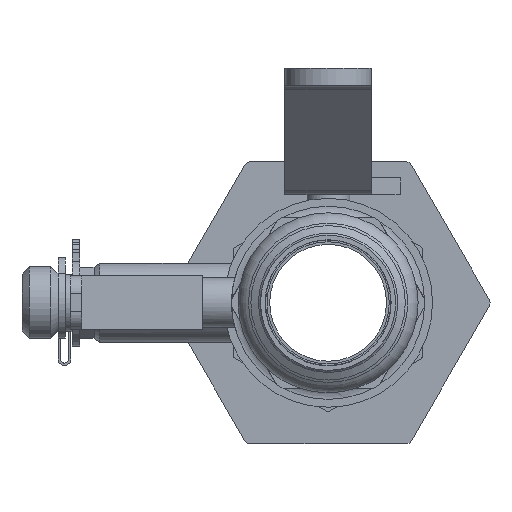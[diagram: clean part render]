
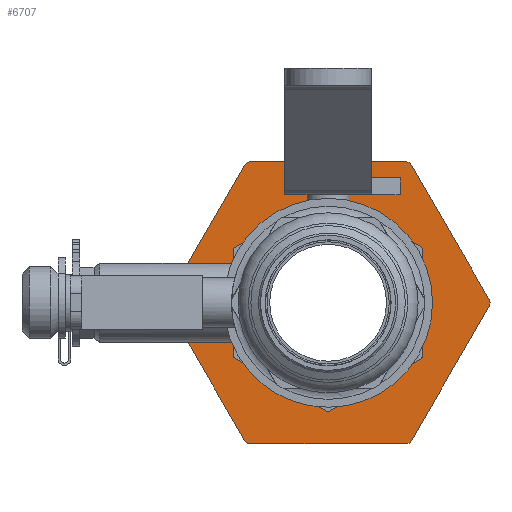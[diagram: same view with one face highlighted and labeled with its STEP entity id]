
A CAD part, left-side view. The second image highlights one B-rep face of the part: STEP entity #6707.
In plain terms, the highlighted planar face has unit normal (-1, 0, 0) as drawn and (1, 0, 0) by its records, which use the part's own axes.
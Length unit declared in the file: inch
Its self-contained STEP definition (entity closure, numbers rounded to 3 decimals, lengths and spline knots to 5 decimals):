
#112=FACE_BOUND('',#789,.T.);
#183=PLANE('',#7278);
#434=FACE_OUTER_BOUND('',#788,.T.);
#788=EDGE_LOOP('',(#4462,#4463,#4464,#4465,#4466,#4467,#4468,#4469,#4470,
#4471,#4472,#4473));
#789=EDGE_LOOP('',(#4474,#4475,#4476,#4477,#4478,#4479,#4480,#4481,#4482,
#4483,#4484,#4485));
#1163=LINE('',#9983,#1758);
#1168=LINE('',#10001,#1763);
#1175=LINE('',#10019,#1770);
#1180=LINE('',#10037,#1775);
#1186=LINE('',#10052,#1781);
#1187=LINE('',#10055,#1782);
#1212=LINE('',#10134,#1807);
#1215=LINE('',#10142,#1810);
#1218=LINE('',#10150,#1813);
#1221=LINE('',#10158,#1816);
#1224=LINE('',#10166,#1819);
#1227=LINE('',#10173,#1822);
#1758=VECTOR('',#7949,0.3937);
#1763=VECTOR('',#7968,0.3937);
#1770=VECTOR('',#7985,0.3937);
#1775=VECTOR('',#8004,0.3937);
#1781=VECTOR('',#8018,0.3937);
#1782=VECTOR('',#8021,0.3937);
#1807=VECTOR('',#8098,0.3937);
#1810=VECTOR('',#8107,0.3937);
#1813=VECTOR('',#8116,0.3937);
#1816=VECTOR('',#8125,0.3937);
#1819=VECTOR('',#8134,0.3937);
#1822=VECTOR('',#8143,0.3937);
#2346=CIRCLE('',#7206,0.025);
#2350=CIRCLE('',#7214,0.025);
#2354=CIRCLE('',#7221,0.025);
#2356=CIRCLE('',#7226,0.025);
#2360=CIRCLE('',#7233,0.025);
#2362=CIRCLE('',#7238,0.025);
#2376=CIRCLE('',#7261,0.05);
#2377=CIRCLE('',#7264,0.05);
#2378=CIRCLE('',#7267,0.05);
#2379=CIRCLE('',#7270,0.05);
#2380=CIRCLE('',#7273,0.05);
#2381=CIRCLE('',#7276,0.05);
#2694=VERTEX_POINT('',#9958);
#2695=VERTEX_POINT('',#9959);
#2704=VERTEX_POINT('',#9982);
#2706=VERTEX_POINT('',#9988);
#2710=VERTEX_POINT('',#10000);
#2712=VERTEX_POINT('',#10006);
#2716=VERTEX_POINT('',#10018);
#2718=VERTEX_POINT('',#10024);
#2722=VERTEX_POINT('',#10036);
#2724=VERTEX_POINT('',#10042);
#2727=VERTEX_POINT('',#10050);
#2728=VERTEX_POINT('',#10054);
#2754=VERTEX_POINT('',#10127);
#2755=VERTEX_POINT('',#10129);
#2756=VERTEX_POINT('',#10133);
#2757=VERTEX_POINT('',#10137);
#2758=VERTEX_POINT('',#10141);
#2759=VERTEX_POINT('',#10145);
#2760=VERTEX_POINT('',#10149);
#2761=VERTEX_POINT('',#10153);
#2762=VERTEX_POINT('',#10157);
#2763=VERTEX_POINT('',#10161);
#2764=VERTEX_POINT('',#10165);
#2765=VERTEX_POINT('',#10169);
#3336=EDGE_CURVE('',#2694,#2695,#2346,.T.);
#3347=EDGE_CURVE('',#2695,#2704,#1163,.T.);
#3350=EDGE_CURVE('',#2704,#2706,#2350,.T.);
#3356=EDGE_CURVE('',#2710,#2694,#1168,.T.);
#3359=EDGE_CURVE('',#2712,#2710,#2354,.T.);
#3365=EDGE_CURVE('',#2706,#2716,#1175,.T.);
#3368=EDGE_CURVE('',#2716,#2718,#2356,.T.);
#3374=EDGE_CURVE('',#2722,#2712,#1180,.T.);
#3377=EDGE_CURVE('',#2724,#2722,#2360,.T.);
#3382=EDGE_CURVE('',#2718,#2727,#1186,.T.);
#3383=EDGE_CURVE('',#2728,#2724,#1187,.T.);
#3386=EDGE_CURVE('',#2727,#2728,#2362,.T.);
#3421=EDGE_CURVE('',#2755,#2754,#2376,.T.);
#3423=EDGE_CURVE('',#2756,#2755,#1212,.T.);
#3425=EDGE_CURVE('',#2757,#2756,#2377,.T.);
#3427=EDGE_CURVE('',#2758,#2757,#1215,.T.);
#3429=EDGE_CURVE('',#2759,#2758,#2378,.T.);
#3431=EDGE_CURVE('',#2760,#2759,#1218,.T.);
#3433=EDGE_CURVE('',#2761,#2760,#2379,.T.);
#3435=EDGE_CURVE('',#2762,#2761,#1221,.T.);
#3437=EDGE_CURVE('',#2763,#2762,#2380,.T.);
#3439=EDGE_CURVE('',#2764,#2763,#1224,.T.);
#3441=EDGE_CURVE('',#2765,#2764,#2381,.T.);
#3443=EDGE_CURVE('',#2754,#2765,#1227,.T.);
#4462=ORIENTED_EDGE('',*,*,#3443,.T.);
#4463=ORIENTED_EDGE('',*,*,#3441,.T.);
#4464=ORIENTED_EDGE('',*,*,#3439,.T.);
#4465=ORIENTED_EDGE('',*,*,#3437,.T.);
#4466=ORIENTED_EDGE('',*,*,#3435,.T.);
#4467=ORIENTED_EDGE('',*,*,#3433,.T.);
#4468=ORIENTED_EDGE('',*,*,#3431,.T.);
#4469=ORIENTED_EDGE('',*,*,#3429,.T.);
#4470=ORIENTED_EDGE('',*,*,#3427,.T.);
#4471=ORIENTED_EDGE('',*,*,#3425,.T.);
#4472=ORIENTED_EDGE('',*,*,#3423,.T.);
#4473=ORIENTED_EDGE('',*,*,#3421,.T.);
#4474=ORIENTED_EDGE('',*,*,#3383,.T.);
#4475=ORIENTED_EDGE('',*,*,#3377,.T.);
#4476=ORIENTED_EDGE('',*,*,#3374,.T.);
#4477=ORIENTED_EDGE('',*,*,#3359,.T.);
#4478=ORIENTED_EDGE('',*,*,#3356,.T.);
#4479=ORIENTED_EDGE('',*,*,#3336,.T.);
#4480=ORIENTED_EDGE('',*,*,#3347,.T.);
#4481=ORIENTED_EDGE('',*,*,#3350,.T.);
#4482=ORIENTED_EDGE('',*,*,#3365,.T.);
#4483=ORIENTED_EDGE('',*,*,#3368,.T.);
#4484=ORIENTED_EDGE('',*,*,#3382,.T.);
#4485=ORIENTED_EDGE('',*,*,#3386,.T.);
#6707=ADVANCED_FACE('',(#434,#112),#183,.T.);
#7206=AXIS2_PLACEMENT_3D('',#9960,#7928,#7929);
#7214=AXIS2_PLACEMENT_3D('',#9989,#7954,#7955);
#7221=AXIS2_PLACEMENT_3D('',#10007,#7973,#7974);
#7226=AXIS2_PLACEMENT_3D('',#10025,#7990,#7991);
#7233=AXIS2_PLACEMENT_3D('',#10043,#8009,#8010);
#7238=AXIS2_PLACEMENT_3D('',#10060,#8026,#8027);
#7261=AXIS2_PLACEMENT_3D('',#10130,#8093,#8094);
#7264=AXIS2_PLACEMENT_3D('',#10138,#8102,#8103);
#7267=AXIS2_PLACEMENT_3D('',#10146,#8111,#8112);
#7270=AXIS2_PLACEMENT_3D('',#10154,#8120,#8121);
#7273=AXIS2_PLACEMENT_3D('',#10162,#8129,#8130);
#7276=AXIS2_PLACEMENT_3D('',#10170,#8138,#8139);
#7278=AXIS2_PLACEMENT_3D('',#10174,#8144,#8145);
#7928=DIRECTION('center_axis',(-1.,0.,0.));
#7929=DIRECTION('ref_axis',(0.,-0.5,0.866));
#7949=DIRECTION('',(0.,-0.866,-0.5));
#7954=DIRECTION('center_axis',(-1.,0.,0.));
#7955=DIRECTION('ref_axis',(0.,0.5,0.866));
#7968=DIRECTION('',(0.,0.,-1.));
#7973=DIRECTION('center_axis',(-1.,0.,0.));
#7974=DIRECTION('ref_axis',(0.,-1.,0.));
#7985=DIRECTION('',(0.,-0.866,0.5));
#7990=DIRECTION('center_axis',(-1.,0.,0.));
#7991=DIRECTION('ref_axis',(0.,1.,0.));
#8004=DIRECTION('',(0.,0.866,-0.5));
#8009=DIRECTION('center_axis',(-1.,0.,0.));
#8010=DIRECTION('ref_axis',(0.,-0.5,-0.866));
#8018=DIRECTION('',(0.,0.,1.));
#8021=DIRECTION('',(0.,0.866,0.5));
#8026=DIRECTION('center_axis',(-1.,0.,0.));
#8027=DIRECTION('ref_axis',(0.,0.5,-0.866));
#8093=DIRECTION('center_axis',(1.,0.,0.));
#8094=DIRECTION('ref_axis',(0.,0.,1.));
#8098=DIRECTION('',(0.,1.,0.));
#8102=DIRECTION('center_axis',(1.,0.,0.));
#8103=DIRECTION('ref_axis',(0.,0.866,0.5));
#8107=DIRECTION('',(0.,0.5,-0.866));
#8111=DIRECTION('center_axis',(1.,0.,0.));
#8112=DIRECTION('ref_axis',(0.,0.866,-0.5));
#8116=DIRECTION('',(0.,-0.5,-0.866));
#8120=DIRECTION('center_axis',(1.,0.,0.));
#8121=DIRECTION('ref_axis',(0.,0.,-1.));
#8125=DIRECTION('',(0.,-1.,0.));
#8129=DIRECTION('center_axis',(1.,0.,0.));
#8130=DIRECTION('ref_axis',(0.,-0.866,-0.5));
#8134=DIRECTION('',(0.,-0.5,0.866));
#8138=DIRECTION('center_axis',(1.,0.,0.));
#8139=DIRECTION('ref_axis',(0.,-0.866,0.5));
#8143=DIRECTION('',(0.,0.5,0.866));
#8144=DIRECTION('center_axis',(1.,0.,0.));
#8145=DIRECTION('ref_axis',(0.,0.,-1.));
#9958=CARTESIAN_POINT('',(0.315,0.6575,-0.36517));
#9959=CARTESIAN_POINT('',(0.315,0.645,-0.38682));
#9960=CARTESIAN_POINT('Origin',(0.315,0.6325,-0.36517));
#9982=CARTESIAN_POINT('',(0.315,0.0125,-0.752));
#9983=CARTESIAN_POINT('',(0.315,0.48688,-0.47812));
#9988=CARTESIAN_POINT('',(0.315,-0.0125,-0.752));
#9989=CARTESIAN_POINT('Origin',(0.315,0.,-0.73035));
#10000=CARTESIAN_POINT('',(0.315,0.6575,0.36517));
#10001=CARTESIAN_POINT('',(0.315,0.6575,0.18259));
#10006=CARTESIAN_POINT('',(0.315,0.645,0.38682));
#10007=CARTESIAN_POINT('Origin',(0.315,0.6325,0.36517));
#10018=CARTESIAN_POINT('',(0.315,-0.645,-0.38682));
#10019=CARTESIAN_POINT('',(0.315,-0.17063,-0.66071));
#10024=CARTESIAN_POINT('',(0.315,-0.6575,-0.36517));
#10025=CARTESIAN_POINT('Origin',(0.315,-0.6325,-0.36517));
#10036=CARTESIAN_POINT('',(0.315,0.0125,0.752));
#10037=CARTESIAN_POINT('',(0.315,0.17063,0.66071));
#10042=CARTESIAN_POINT('',(0.315,-0.0125,0.752));
#10043=CARTESIAN_POINT('Origin',(0.315,0.,0.73035));
#10050=CARTESIAN_POINT('',(0.315,-0.6575,0.36517));
#10052=CARTESIAN_POINT('',(0.315,-0.6575,-0.18259));
#10054=CARTESIAN_POINT('',(0.315,-0.645,0.38682));
#10055=CARTESIAN_POINT('',(0.315,-0.48687,0.47812));
#10060=CARTESIAN_POINT('Origin',(0.315,-0.6325,0.36517));
#10127=CARTESIAN_POINT('',(0.315,0.58024,-0.955));
#10129=CARTESIAN_POINT('',(0.315,0.53694,-0.98));
#10130=CARTESIAN_POINT('Origin',(0.315,0.53694,-0.93));
#10133=CARTESIAN_POINT('',(0.315,-0.53694,-0.98));
#10134=CARTESIAN_POINT('',(0.315,0.53694,-0.98));
#10137=CARTESIAN_POINT('',(0.315,-0.58024,-0.955));
#10138=CARTESIAN_POINT('Origin',(0.315,-0.53694,-0.93));
#10141=CARTESIAN_POINT('',(0.315,-1.11717,-0.025));
#10142=CARTESIAN_POINT('',(0.315,-0.58024,-0.955));
#10145=CARTESIAN_POINT('',(0.315,-1.11717,0.025));
#10146=CARTESIAN_POINT('Origin',(0.315,-1.07387,0.));
#10149=CARTESIAN_POINT('',(0.315,-0.58024,0.955));
#10150=CARTESIAN_POINT('',(0.315,-1.11717,0.025));
#10153=CARTESIAN_POINT('',(0.315,-0.53694,0.98));
#10154=CARTESIAN_POINT('Origin',(0.315,-0.53694,0.93));
#10157=CARTESIAN_POINT('',(0.315,0.53694,0.98));
#10158=CARTESIAN_POINT('',(0.315,-0.53694,0.98));
#10161=CARTESIAN_POINT('',(0.315,0.58024,0.955));
#10162=CARTESIAN_POINT('Origin',(0.315,0.53694,0.93));
#10165=CARTESIAN_POINT('',(0.315,1.11717,0.025));
#10166=CARTESIAN_POINT('',(0.315,0.58024,0.955));
#10169=CARTESIAN_POINT('',(0.315,1.11717,-0.025));
#10170=CARTESIAN_POINT('Origin',(0.315,1.07387,0.));
#10173=CARTESIAN_POINT('',(0.315,1.11717,-0.025));
#10174=CARTESIAN_POINT('Origin',(0.315,0.,0.));
